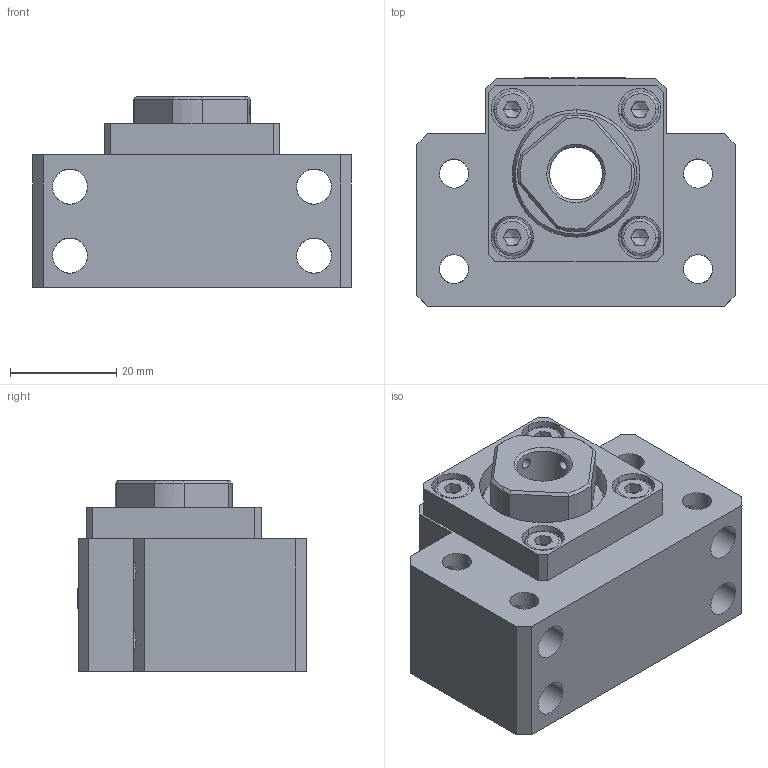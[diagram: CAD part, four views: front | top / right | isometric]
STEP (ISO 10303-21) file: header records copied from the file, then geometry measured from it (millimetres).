
FILE_DESCRIPTION (( 'STEP AP214' ), '1' );
FILE_NAME ('7.4002 BK12.STEP', '2026-03-05T13:16:08', ( '' ), ( '' ), 'SwSTEP 2.0', 'SolidWorks 2025', '' );
FILE_SCHEMA (( 'AUTOMOTIVE_DESIGN' ));
Length unit declared in the file: millimetre
Products named in the file (1): 7.4002 BK12
Bounding box: 60 x 43.1 x 36 mm (x, y, z)
Surface area: 16988 mm2 (no closed solid volume)
Topology: 0 solids, 13 shells, 252 faces, 697 edges, 448 vertices
Faces by surface type: plane 109, cylinder 73, bspline 35, cone 31, sphere 4
Entity records: 17163 total; most frequent: CARTESIAN_POINT 11866, ORIENTED_EDGE 1287, EDGE_CURVE 677, B_SPLINE_CURVE_WITH_KNOTS 637, VERTEX_POINT 448, DIRECTION 444, EDGE_LOOP 310, FACE_OUTER_BOUND 252
